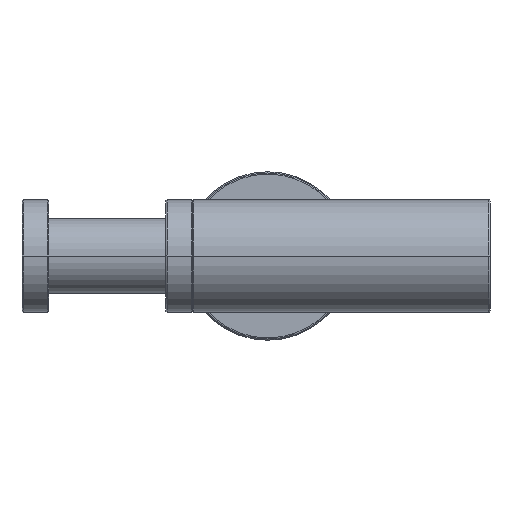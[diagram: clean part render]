
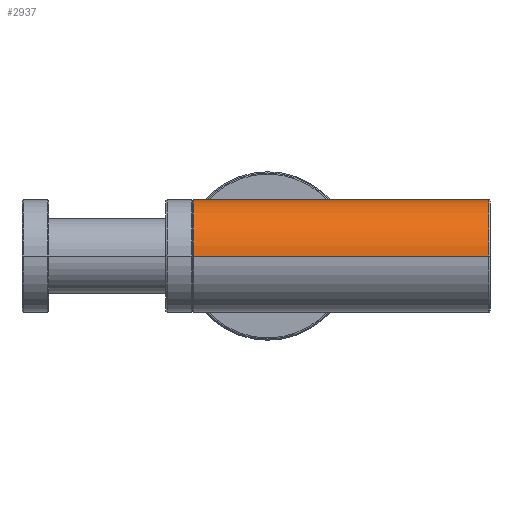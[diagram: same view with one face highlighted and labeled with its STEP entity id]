
A CAD part, left-side view. The second image highlights one B-rep face of the part: STEP entity #2937.
In plain terms, the highlighted cylindrical face has radius 24 mm (diameter 48 mm), a partial arc.
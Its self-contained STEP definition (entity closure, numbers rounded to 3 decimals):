
#31=CARTESIAN_POINT('',(0.,0.5,0.));
#32=DIRECTION('',(0.,-1.,0.));
#33=DIRECTION('',(1.,0.,0.));
#34=AXIS2_PLACEMENT_3D('',#31,#32,#33);
#36=DIRECTION('',(0.,-1.,0.));
#37=VECTOR('',#36,126.2);
#38=CARTESIAN_POINT('',(-24.,126.7,0.));
#39=LINE('',#38,#37);
#40=CARTESIAN_POINT('',(0.,126.7,0.));
#41=DIRECTION('',(0.,-1.,0.));
#42=DIRECTION('',(1.,0.,0.));
#43=AXIS2_PLACEMENT_3D('',#40,#41,#42);
#45=DIRECTION('',(0.,-1.,0.));
#46=VECTOR('',#45,5.7);
#47=CARTESIAN_POINT('',(24.,126.7,0.));
#48=LINE('',#47,#46);
#49=CARTESIAN_POINT('',(24.,121.,0.));
#50=CARTESIAN_POINT('',(24.,121.,0.569));
#51=CARTESIAN_POINT('',(23.959,120.956,1.715));
#52=CARTESIAN_POINT('',(23.773,120.754,3.447));
#53=CARTESIAN_POINT('',(23.455,120.41,5.189));
#54=CARTESIAN_POINT('',(23.,119.917,6.937));
#55=CARTESIAN_POINT('',(22.397,119.263,8.694));
#56=CARTESIAN_POINT('',(21.631,118.434,10.457));
#57=CARTESIAN_POINT('',(20.691,117.415,12.218));
#58=CARTESIAN_POINT('',(19.558,116.187,13.964));
#59=CARTESIAN_POINT('',(18.217,114.735,15.678));
#60=CARTESIAN_POINT('',(16.655,113.043,17.333));
#61=CARTESIAN_POINT('',(14.863,111.101,18.896));
#62=CARTESIAN_POINT('',(12.84,108.91,20.329));
#63=CARTESIAN_POINT('',(10.594,106.477,21.588));
#64=CARTESIAN_POINT('',(8.146,103.825,22.629));
#65=CARTESIAN_POINT('',(5.53,100.991,23.408));
#66=CARTESIAN_POINT('',(2.796,98.03,23.891));
#67=CARTESIAN_POINT('',(0.938,96.016,24.));
#68=CARTESIAN_POINT('',(0.,95.,24.));
#70=CARTESIAN_POINT('',(0.,95.,24.));
#71=CARTESIAN_POINT('',(0.938,93.983,24.));
#72=CARTESIAN_POINT('',(2.797,91.97,23.891));
#73=CARTESIAN_POINT('',(5.529,89.01,23.408));
#74=CARTESIAN_POINT('',(8.145,86.176,22.629));
#75=CARTESIAN_POINT('',(10.594,83.523,21.588));
#76=CARTESIAN_POINT('',(12.84,81.09,20.329));
#77=CARTESIAN_POINT('',(14.864,78.898,18.896));
#78=CARTESIAN_POINT('',(16.656,76.956,17.331));
#79=CARTESIAN_POINT('',(18.219,75.263,15.676));
#80=CARTESIAN_POINT('',(19.56,73.81,13.962));
#81=CARTESIAN_POINT('',(20.693,72.583,12.215));
#82=CARTESIAN_POINT('',(21.634,71.564,10.453));
#83=CARTESIAN_POINT('',(22.398,70.735,8.69));
#84=CARTESIAN_POINT('',(23.001,70.082,6.932));
#85=CARTESIAN_POINT('',(23.456,69.589,5.183));
#86=CARTESIAN_POINT('',(23.774,69.245,3.44));
#87=CARTESIAN_POINT('',(23.96,69.044,1.71));
#88=CARTESIAN_POINT('',(24.,69.,0.567));
#89=CARTESIAN_POINT('',(24.,69.,0.));
#91=DIRECTION('',(0.,-1.,0.));
#92=VECTOR('',#91,68.5);
#93=CARTESIAN_POINT('',(24.,69.,0.));
#94=LINE('',#93,#92);
#130=CARTESIAN_POINT('',(24.,69.,0.));
#2453=CARTESIAN_POINT('',(24.,0.5,0.));
#2454=CARTESIAN_POINT('',(-24.,0.5,0.));
#2455=VERTEX_POINT('',#2453);
#2456=VERTEX_POINT('',#2454);
#2457=CARTESIAN_POINT('',(24.,126.7,0.));
#2458=CARTESIAN_POINT('',(-24.,126.7,0.));
#2459=VERTEX_POINT('',#2457);
#2460=VERTEX_POINT('',#2458);
#2493=VERTEX_POINT('',#49);
#2494=VERTEX_POINT('',#68);
#2497=VERTEX_POINT('',#130);
#2917=CARTESIAN_POINT('',(0.,141.75,0.));
#2918=DIRECTION('',(0.,-1.,0.));
#2919=DIRECTION('',(-1.,0.,0.));
#2920=AXIS2_PLACEMENT_3D('',#2917,#2918,#2919);
#2921=CYLINDRICAL_SURFACE('',#2920,24.);
#2923=ORIENTED_EDGE('',*,*,#2922,.T.);
#2925=ORIENTED_EDGE('',*,*,#2924,.F.);
#2926=ORIENTED_EDGE('',*,*,#2907,.F.);
#2928=ORIENTED_EDGE('',*,*,#2927,.T.);
#2930=ORIENTED_EDGE('',*,*,#2929,.T.);
#2932=ORIENTED_EDGE('',*,*,#2931,.T.);
#2934=ORIENTED_EDGE('',*,*,#2933,.T.);
#2935=EDGE_LOOP('',(#2923,#2925,#2926,#2928,#2930,#2932,#2934));
#2936=FACE_OUTER_BOUND('',#2935,.F.);
#2937=ADVANCED_FACE('',(#2936),#2921,.T.);
#35=CIRCLE('',#34,24.);
#44=CIRCLE('',#43,24.);
#69=B_SPLINE_CURVE_WITH_KNOTS('',3,(#49,#50,#51,#52,#53,#54,#55,#56,#57,#58,#59,
#60,#61,#62,#63,#64,#65,#66,#67,#68),.UNSPECIFIED.,.F.,.F.,(4,1,1,1,1,1,1,1,1,1,
1,1,1,1,1,1,1,4),(0.,0.059,0.118,0.176,
0.235,0.294,0.353,0.412,
0.471,0.529,0.588,0.647,
0.706,0.765,0.824,0.882,
0.941,1.),.UNSPECIFIED.);
#90=B_SPLINE_CURVE_WITH_KNOTS('',3,(#70,#71,#72,#73,#74,#75,#76,#77,#78,#79,#80,
#81,#82,#83,#84,#85,#86,#87,#88,#89),.UNSPECIFIED.,.F.,.F.,(4,1,1,1,1,1,1,1,1,1,
1,1,1,1,1,1,1,4),(0.,0.059,0.118,0.176,
0.235,0.294,0.353,0.412,
0.471,0.529,0.588,0.647,
0.706,0.765,0.824,0.882,
0.941,1.),.UNSPECIFIED.);
#2907=EDGE_CURVE('',#2459,#2460,#44,.T.);
#2922=EDGE_CURVE('',#2455,#2456,#35,.T.);
#2924=EDGE_CURVE('',#2460,#2456,#39,.T.);
#2927=EDGE_CURVE('',#2459,#2493,#48,.T.);
#2929=EDGE_CURVE('',#2493,#2494,#69,.T.);
#2931=EDGE_CURVE('',#2494,#2497,#90,.T.);
#2933=EDGE_CURVE('',#2497,#2455,#94,.T.);
